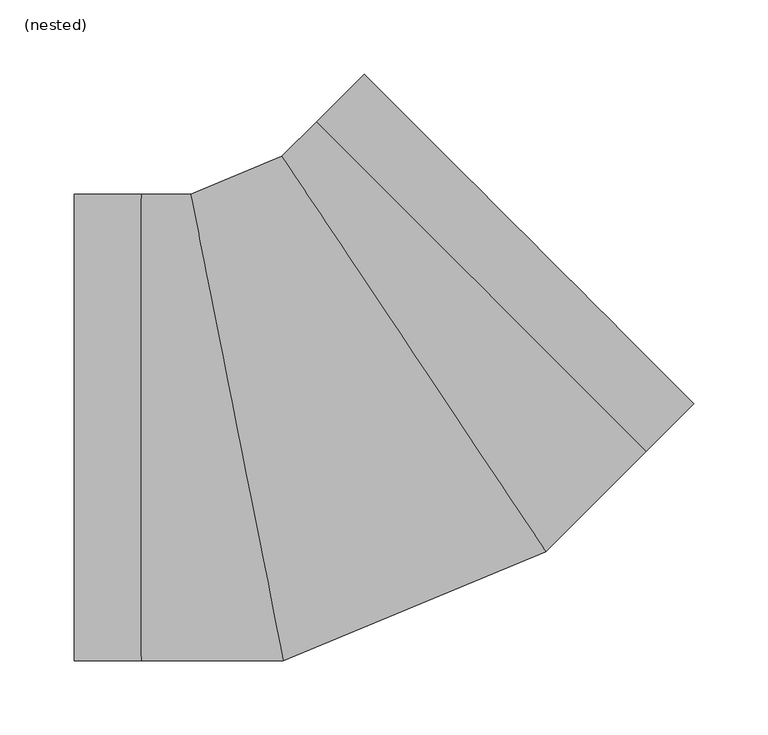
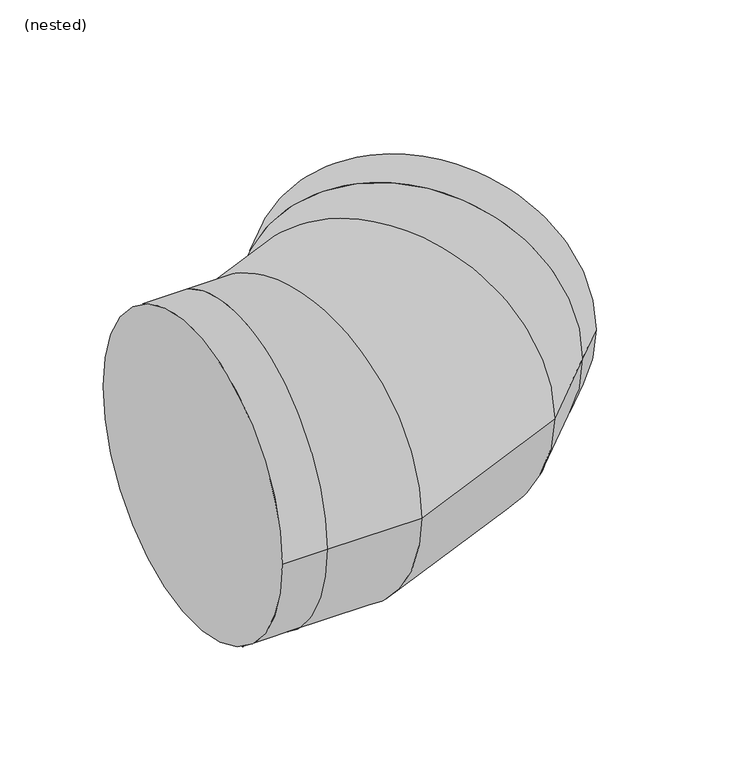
"""IFC4 building model written with IfcOpenShell, lengths in millimetres: pipe fitting geometry, NLRS_52_PIF_UN_PE segmentbocht_SH_geb : (nested)."""

from ifc_helpers import new_model, si_unit, frame, origin, place, context, project, spatial, circle_curve, ellipse_curve, source, transform, mapped, element, save
from ifc_brep_helpers import plane_surface, cylinder_surface, advanced_brep


def nested_cf578549(model_context):
    return source(origin(), model_context, "Body", "AdvancedBrep", [
        advanced_brep(
        [(-180.0, -157.5, 0.0), (-180.0, 157.5, 0.0), (-134.6194078, -157.5, 0.0), (-134.6194078, 157.5, 0.0), (-38.6441905, -157.5, 0.0), (-101.3015862, 157.5, 0.0), (138.6948872, -84.0437489, 0.0), (-39.7382795, 183.0003566, 0.0), (238.6485387, 15.9099026, 0.0), (15.9099026, 238.6485387, 0.0), (-16.1790219, 206.5596142, 0.0), (206.5596142, -16.1790219, 0.0)],
        [
            (0, 1, circle_curve(frame((-180.0, 0.0, 0.0), z_axis=(-1.0, 0.0, 0.0), x_axis=(0.0, 1.0, 0.0)), 157.5)),
            (1, 0, circle_curve(frame((-180.0, 0.0, 0.0), z_axis=(-1.0, 0.0, 0.0), x_axis=(0.0, 1.0, 0.0)), 157.5)),
            (0, 2),
            (2, 3, circle_curve(frame((-134.6194078, 0.0, 0.0), z_axis=(-1.0, 0.0, 0.0), x_axis=(0.0, 1.0, 0.0)), 157.5)),
            (3, 1),
            (3, 2, circle_curve(frame((-134.6194078, 0.0, 0.0), z_axis=(-1.0, 0.0, 0.0), x_axis=(0.0, 1.0, 0.0)), 157.5)),
            (2, 4),
            (4, 5, ellipse_curve(frame((-69.9728884, 0.0, 0.0), z_axis=(-0.9807852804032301, -0.19509032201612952, 0.0), x_axis=(-0.1950903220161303, 0.98078528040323, 0.0)), 160.5856074, 157.5)),
            (5, 3),
            (5, 4, ellipse_curve(frame((-69.9728884, 0.0, 0.0), z_axis=(-0.9807852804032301, -0.19509032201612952, 0.0), x_axis=(-0.1950903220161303, 0.98078528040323, 0.0)), 160.5856074, 157.5)),
            (4, 6),
            (6, 7, ellipse_curve(frame((49.4783039, 49.4783039, 0.0), z_axis=(-0.8314696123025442, -0.5555702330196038, 0.0), x_axis=(-0.5555702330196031, 0.8314696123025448, 0.0)), 160.5856074, 157.5)),
            (7, 5),
            (7, 6, ellipse_curve(frame((49.4783039, 49.4783039, 0.0), z_axis=(-0.8314696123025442, -0.5555702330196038, 0.0), x_axis=(-0.5555702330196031, 0.8314696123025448, 0.0)), 160.5856074, 157.5)),
            (8, 9, circle_curve(frame((127.2792206, 127.2792206, 0.0), z_axis=(0.7071067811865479, 0.7071067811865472, 0.0), x_axis=(-0.7071067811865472, 0.7071067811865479, 0.0)), 157.5)),
            (9, 8, circle_curve(frame((127.2792206, 127.2792206, 0.0), z_axis=(0.7071067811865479, 0.7071067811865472, 0.0), x_axis=(-0.7071067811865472, 0.7071067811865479, 0.0)), 157.5)),
            (10, 11, circle_curve(frame((95.1902961, 95.1902961, 0.0), z_axis=(0.7071067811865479, 0.7071067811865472, 0.0), x_axis=(-0.7071067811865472, 0.7071067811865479, 0.0)), 157.5)),
            (11, 8),
            (9, 10),
            (11, 10, circle_curve(frame((95.1902961, 95.1902961, 0.0), z_axis=(0.7071067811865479, 0.7071067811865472, 0.0), x_axis=(-0.7071067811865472, 0.7071067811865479, 0.0)), 157.5)),
            (6, 11),
            (10, 7),
        ],
        [
            plane_surface(frame((-180.0, 0.0, 0.0), z_axis=(-1.0, 0.0, 0.0), x_axis=(0.0, 0.0, 1.0))),
            cylinder_surface(frame((-180.0, 0.0, 0.0), z_axis=(-1.0, 0.0, 0.0), x_axis=(0.0, 1.0, 0.0)), 157.5),
            cylinder_surface(frame((-134.6194078, 0.0, 0.0), z_axis=(-1.0, 0.0, 0.0), x_axis=(0.0, 1.0, 0.0)), 157.5),
            cylinder_surface(frame((-69.9728884, 0.0, 0.0), z_axis=(-0.9238795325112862, -0.3826834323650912, 0.0), x_axis=(-0.3826834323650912, 0.9238795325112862, 0.0)), 157.5),
            plane_surface(frame((127.2792206, 127.2792206, 0.0), z_axis=(0.707106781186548, 0.7071067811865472, 0.0), x_axis=(0.0, 0.0, 1.0))),
            cylinder_surface(frame((95.1902961, 95.1902961, 0.0), z_axis=(-0.7071067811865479, -0.7071067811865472, 0.0), x_axis=(-0.7071067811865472, 0.7071067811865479, 0.0)), 157.5),
            cylinder_surface(frame((49.4783039, 49.4783039, 0.0), z_axis=(-0.7071067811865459, -0.7071067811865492, 0.0), x_axis=(-0.7071067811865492, 0.7071067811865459, 0.0)), 157.5),
        ],
        [
            (0, [[1, 2]]),
            (1, [[-1, 3, 4, 5]]),
            (1, [[-2, -5, 6, -3]]),
            (2, [[-4, 7, 8, 9]]),
            (2, [[-6, -9, 10, -7]]),
            (3, [[-8, 11, 12, 13]]),
            (3, [[-10, -13, 14, -11]]),
            (4, [[15, 16]]),
            (5, [[17, 18, -16, 19]]),
            (5, [[20, -19, -15, -18]]),
            (6, [[-12, 21, -17, 22]]),
            (6, [[-14, -22, -20, -21]]),
        ],
    ),
    ])


if __name__ == "__main__":
    model = new_model("IFC4")
    model_context = context("Model", 3, world=origin())
    ifc_project = project(units=[si_unit("LENGTHUNIT", "METRE", prefix="MILLI")], contexts=[model_context])
    site = spatial("IfcSite", under=ifc_project)
    building = spatial("IfcBuilding", under=site)
    placement = place(None, origin())
    nested_shape = nested_cf578549(model_context)
    element("IfcPipeFitting", 1, ObjectType="NLRS_52_PIF_UN_PE segmentbocht_SH_geb : (nested)", at=placement, inside=building, context=model_context, shape_type="MappedRepresentation", body=[
        mapped(nested_shape, transform((0.0, 0.0, 0.0), x_axis=(1.0, 0.0, 0.0), y_axis=(0.0, 1.0, 0.0), z_axis=(0.0, 0.0, 1.0))),
    ])
    save(model, "model.ifc")
